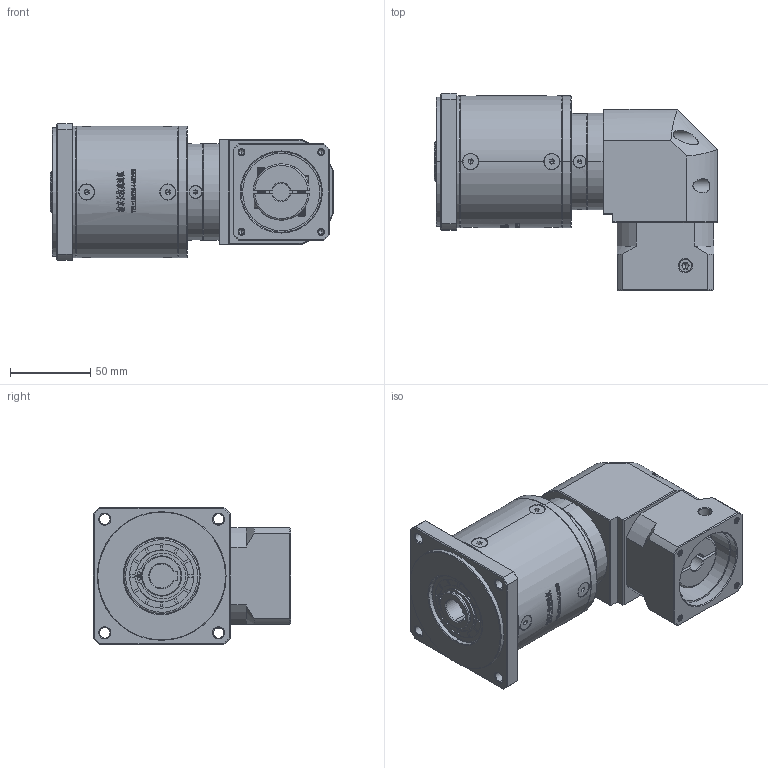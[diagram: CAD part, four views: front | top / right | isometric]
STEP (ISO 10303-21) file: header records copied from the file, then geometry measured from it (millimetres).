
FILE_DESCRIPTION (( 'STEP AP214' ), '1' );
FILE_NAME ('ZFR80-K15-L3-11-50-70-M4.step', '2022-05-08T15:00:00', ( '' ), ( 'Microsoft' ), 'SwSTEP 2.0', 'SolidWorks 2016', '' );
FILE_SCHEMA (( 'AUTOMOTIVE_DESIGN' ));
Length unit declared in the file: millimetre
Products named in the file (1): ZFR80-K15-L3-11-50-70-M4
Bounding box: 176 x 122.7 x 85 mm (x, y, z)
Volume: 871187.9 mm3; surface area: 106054.9 mm2
Topology: 17 solids, 18 shells, 3020 faces, 8070 edges, 5206 vertices
Faces by surface type: plane 1594, bspline 598, cylinder 433, cone 375, torus 20
Entity records: 157185 total; most frequent: CARTESIAN_POINT 53691, ORIENTED_EDGE 16052, DIRECTION 12280, EDGE_CURVE 8026, VERTEX_POINT 5206, VECTOR 4924, LINE 4924, AXIS2_PLACEMENT_3D 3678
